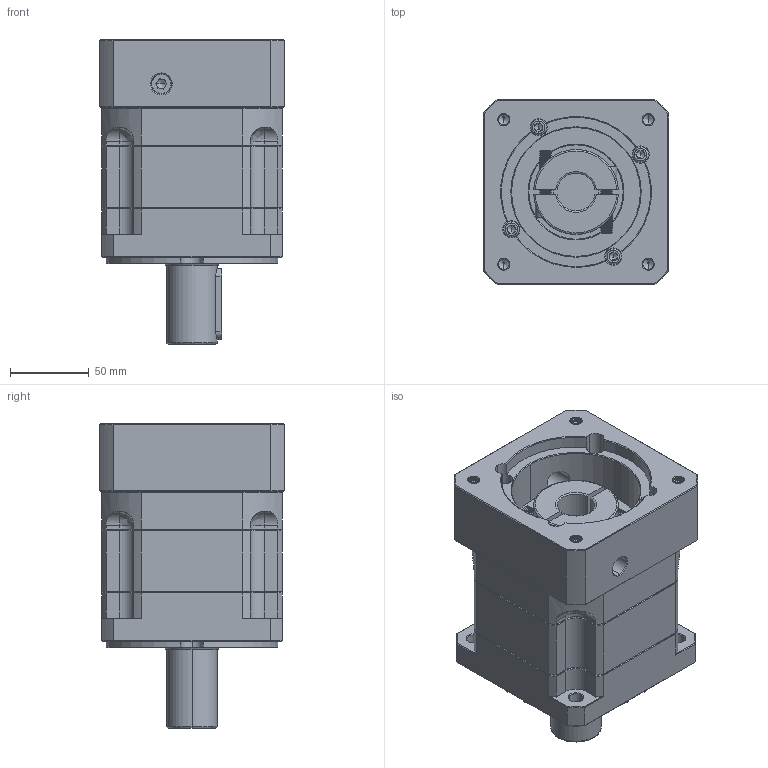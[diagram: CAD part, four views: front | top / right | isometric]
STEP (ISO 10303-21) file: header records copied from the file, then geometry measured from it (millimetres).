
FILE_DESCRIPTION (( 'STEP AP214' ), '1' );
FILE_NAME ('ZB115A-D32-L1-P2-24-95-130-M8.step', '2023-08-26T06:29:31', ( '' ), ( '' ), 'SwSTEP 2.0', 'SolidWorks 2016', '' );
FILE_SCHEMA (( 'AUTOMOTIVE_DESIGN' ));
Length unit declared in the file: millimetre
Products named in the file (1): ZB115A-D32-L1-P2-24-95-130-M8
Bounding box: 118 x 118 x 193.5 mm (x, y, z)
Volume: 1577721.1 mm3; surface area: 170453.9 mm2
Topology: 6 solids, 6 shells, 2402 faces, 6318 edges, 4012 vertices
Faces by surface type: plane 1144, cylinder 444, bspline 423, cone 371, torus 20
Entity records: 129866 total; most frequent: CARTESIAN_POINT 47758, ORIENTED_EDGE 12568, DIRECTION 9958, EDGE_CURVE 6284, VERTEX_POINT 4012, VECTOR 4004, LINE 4004, AXIS2_PLACEMENT_3D 2977
